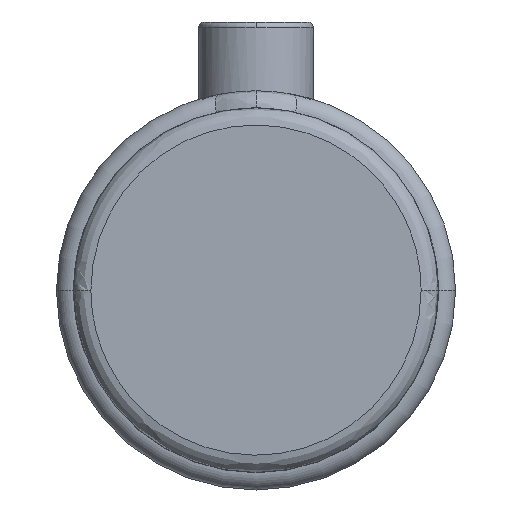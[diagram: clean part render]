
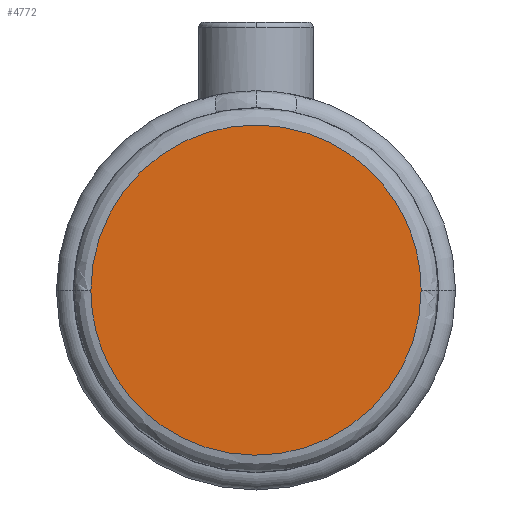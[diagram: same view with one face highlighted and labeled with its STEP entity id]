
A CAD part, top view. The second image highlights one B-rep face of the part: STEP entity #4772.
In plain terms, the highlighted planar face has unit normal (0, 0, 1).
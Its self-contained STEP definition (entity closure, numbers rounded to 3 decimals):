
#103 = CARTESIAN_POINT ( 'NONE',  ( 28.75, 0., 38. ) ) ;
#104 = EDGE_CURVE ( 'NONE', #5984, #1412, #837, .T. ) ;
#837 =( BOUNDED_CURVE ( )  B_SPLINE_CURVE ( 3, ( #103, #1594, #2244, #3748 ),
 .UNSPECIFIED., .F., .F. ) 
 B_SPLINE_CURVE_WITH_KNOTS ( ( 4, 4 ),
 ( 0.25, 0.75 ),
 .UNSPECIFIED. ) 
 CURVE ( )  GEOMETRIC_REPRESENTATION_ITEM ( )  RATIONAL_B_SPLINE_CURVE ( ( 1., 0.333, 0.333, 1. ) ) 
 REPRESENTATION_ITEM ( '' )  );
#1308 = DIRECTION ( 'NONE',  ( 0., 0., 1. ) ) ;
#1322 = CARTESIAN_POINT ( 'NONE',  ( -28.75, 0., 38. ) ) ;
#1412 = VERTEX_POINT ( 'NONE', #6780 ) ;
#1594 = CARTESIAN_POINT ( 'NONE',  ( 28.75, -57.5, 38. ) ) ;
#2244 = CARTESIAN_POINT ( 'NONE',  ( -28.75, -57.5, 38. ) ) ;
#2614 =( BOUNDED_CURVE ( )  B_SPLINE_CURVE ( 3, ( #1322, #5898, #8128, #3711 ),
 .UNSPECIFIED., .F., .T. ) 
 B_SPLINE_CURVE_WITH_KNOTS ( ( 4, 4 ),
 ( 0.75, 1.25 ),
 .UNSPECIFIED. ) 
 CURVE ( )  GEOMETRIC_REPRESENTATION_ITEM ( )  RATIONAL_B_SPLINE_CURVE ( ( 1., 0.333, 0.333, 1. ) ) 
 REPRESENTATION_ITEM ( '' )  );
#2707 = CARTESIAN_POINT ( 'NONE',  ( 0., 15.875, 38. ) ) ;
#3025 = FACE_OUTER_BOUND ( 'NONE', #3301, .T. ) ;
#3123 = AXIS2_PLACEMENT_3D ( 'NONE', #2707, #1308, #6382 ) ;
#3182 = EDGE_CURVE ( 'NONE', #1412, #5984, #2614, .T. ) ;
#3301 = EDGE_LOOP ( 'NONE', ( #6735, #6973 ) ) ;
#3425 = PLANE ( 'NONE',  #3123 ) ;
#3711 = CARTESIAN_POINT ( 'NONE',  ( 28.75, 0., 38. ) ) ;
#3748 = CARTESIAN_POINT ( 'NONE',  ( -28.75, 0., 38. ) ) ;
#4772 = ADVANCED_FACE ( 'NONE', ( #3025 ), #3425, .T. ) ;
#5898 = CARTESIAN_POINT ( 'NONE',  ( -28.75, 57.5, 38. ) ) ;
#5984 = VERTEX_POINT ( 'NONE', #6465 ) ;
#6382 = DIRECTION ( 'NONE',  ( 0., -1., 0. ) ) ;
#6465 = CARTESIAN_POINT ( 'NONE',  ( 28.75, 0., 38. ) ) ;
#6735 = ORIENTED_EDGE ( 'NONE', *, *, #104, .F. ) ;
#6780 = CARTESIAN_POINT ( 'NONE',  ( -28.75, 0., 38. ) ) ;
#6973 = ORIENTED_EDGE ( 'NONE', *, *, #3182, .F. ) ;
#8128 = CARTESIAN_POINT ( 'NONE',  ( 28.75, 57.5, 38. ) ) ;
